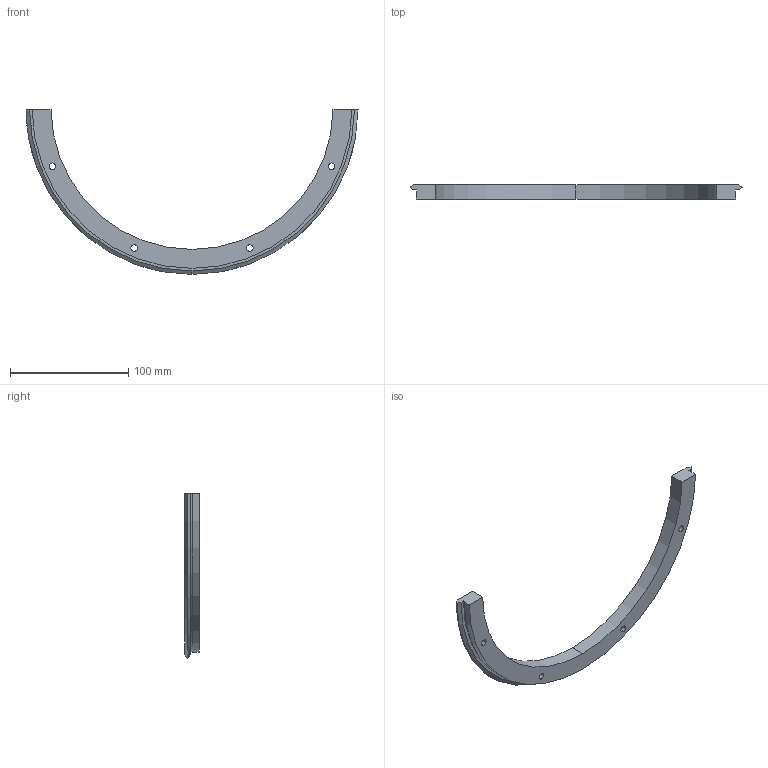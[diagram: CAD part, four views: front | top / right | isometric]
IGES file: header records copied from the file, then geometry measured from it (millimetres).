
Start section: 3D InterOp IGES (v. 2020 1.0.1), Spatial Corp. Copyright (c) 1999-2017.
Global section: file name: res_280_r180.igs; native system: Spatial Corp.; preprocessor: 3D InterOp ACIS/IGES; author: TraceParts; organization: TraceParts S.A.; date: 20220409.091838; units: millimetre
Bounding box: 280.21 x 12.25 x 139.11 mm (x, y, z)
Surface area: 27501.5 mm2 (no closed solid volume)
Topology: 0 solids, 0 shells, 40 faces, 198 edges, 198 vertices
Faces by surface type: revolution 30, extrusion 10
